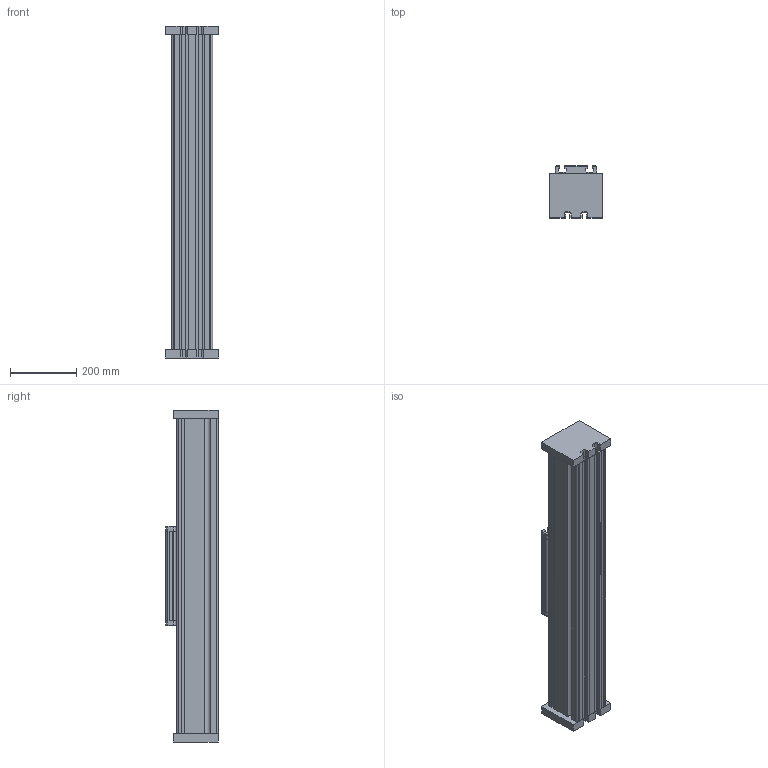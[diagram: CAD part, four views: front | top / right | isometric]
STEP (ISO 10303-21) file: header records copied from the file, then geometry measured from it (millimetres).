
FILE_DESCRIPTION (( 'STEP AP214' ), '1' );
FILE_NAME ('QSR125.STEP', '2022-06-29T12:03:13', ( '' ), ( '' ), 'SwSTEP 2.0', 'SolidWorks 2020', '' );
FILE_SCHEMA (( 'AUTOMOTIVE_DESIGN' ));
Length unit declared in the file: millimetre
Products named in the file (4): profile^QSR125; QSR125; end plate^QSR125; carriage^QSR125_carriage  0
Assembly tree (4 placements, depth 2):
  QSR125
    profile^QSR125
    carriage^QSR125_carriage  0
    end plate^QSR125  x2
Bounding box: 160 x 157.5 x 1000 mm (x, y, z)
Volume: 12342132.3 mm3; surface area: 1038415.3 mm2
Topology: 6 solids, 6 shells, 235 faces, 653 edges, 430 vertices
Faces by surface type: plane 186, cylinder 41, torus 8
Entity records: 7053 total; most frequent: CARTESIAN_POINT 1227, ORIENTED_EDGE 1210, DIRECTION 1135, EDGE_CURVE 605, LINE 523, VECTOR 523, VERTEX_POINT 398, AXIS2_PLACEMENT_3D 306
